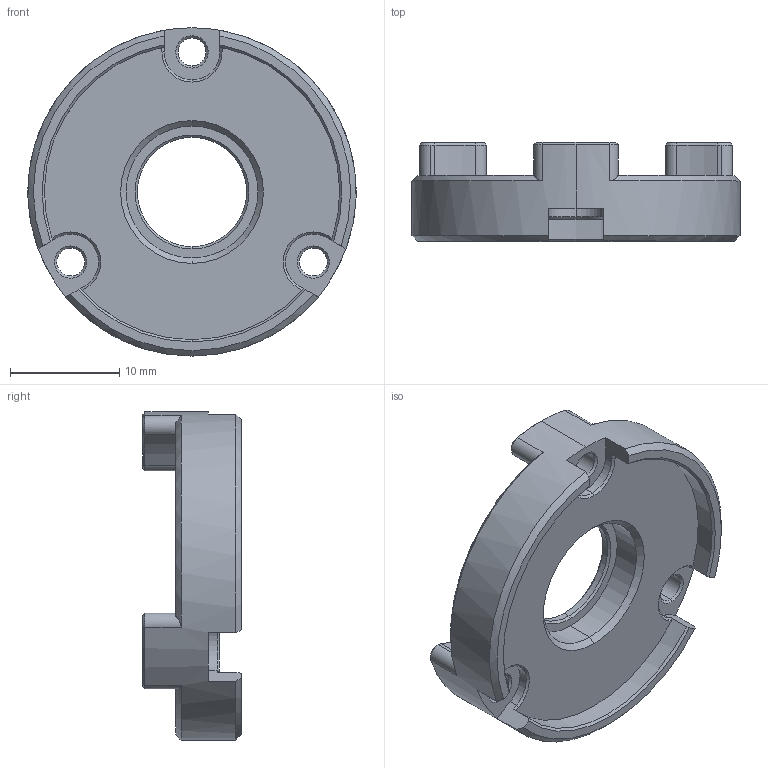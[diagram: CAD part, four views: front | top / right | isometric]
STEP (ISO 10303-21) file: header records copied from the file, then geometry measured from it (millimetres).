
FILE_DESCRIPTION (( 'STEP AP203' ), '1' );
FILE_NAME ('固定盖（带磁环）.STEP', '2025-03-03T12:35:16', ( '' ), ( '' ), 'SwSTEP 2.0', 'SolidWorks 2020', '' );
FILE_SCHEMA (( 'CONFIG_CONTROL_DESIGN' ));
Length unit declared in the file: millimetre
Products named in the file (1): 嘐隅裔ㄗ湍棠遠ㄘ
Bounding box: 30 x 9 x 30 mm (x, y, z)
Volume: 2602.4 mm3; surface area: 2397.2 mm2
Topology: 1 solids, 1 shells, 130 faces, 321 edges, 197 vertices
Faces by surface type: cone 60, cylinder 43, plane 27
Entity records: 3987 total; most frequent: CARTESIAN_POINT 739, DIRECTION 720, ORIENTED_EDGE 642, EDGE_CURVE 321, AXIS2_PLACEMENT_3D 292, VERTEX_POINT 197, CIRCLE 161, EDGE_LOOP 142
